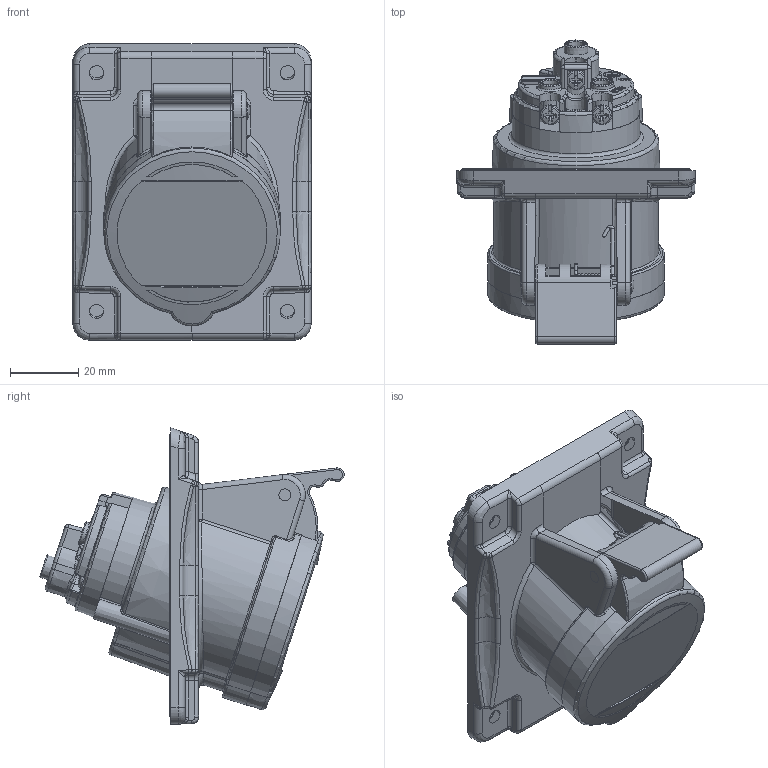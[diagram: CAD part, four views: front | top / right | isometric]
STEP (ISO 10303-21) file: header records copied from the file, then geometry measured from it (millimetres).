
FILE_DESCRIPTION(/* description */ (''),/* implementation_level */ '2;1');
FILE_NAME(/* name */ '4001770.stp',/* time_stamp */ '2017-01-17T08:13:25+01:00',/* author */ (''),/* organization */ (''),/* preprocessor_version */ 'ST-DEVELOPER v16',/* originating_system */ 'SIEMENS PLM Software NX 11.0',/* authorisation */ '');
FILE_SCHEMA (('AUTOMOTIVE_DESIGN { 1 0 10303 214 3 1 1 1 }'));
Products named in the file (1): 4001770_LINKEDEXT_jt
Bounding box: 70 x 89.3 x 87 mm (x, y, z)
Surface area: 47329 mm2 (no closed solid volume)
Topology: 0 solids, 77 shells, 741 faces, 2786 edges, 2040 vertices
Faces by surface type: cylinder 209, bspline 184, plane 163, torus 98, cone 45, sphere 27, extrusion 15
Full cylindrical faces by diameter (mm): 0.998 x4, 1 x2, 2.4 x2, 3.5 x3, 3.6 x3, 4 x4, 4.643 x1, 5 x2, 5.7 x1, 5.8 x3, 7 x2
Entity records: 58917 total; most frequent: CARTESIAN_POINT 34078, DIRECTION 4198, ORIENTED_EDGE 3880, EDGE_CURVE 2651, VERTEX_POINT 2008, AXIS2_PLACEMENT_3D 1653, VECTOR 892, LINE 877
